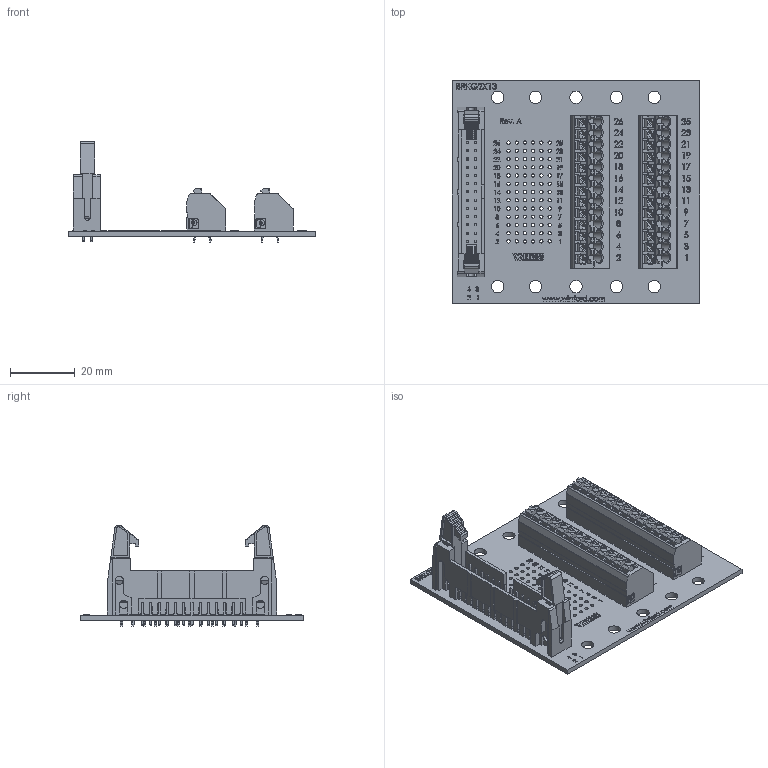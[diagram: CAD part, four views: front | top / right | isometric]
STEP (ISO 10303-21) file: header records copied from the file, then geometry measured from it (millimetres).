
FILE_DESCRIPTION (( 'STEP AP214' ), '1' );
FILE_NAME ('brkg2x13-l-n_rev_a.step', '2018-12-17T02:17:01', ( '' ), ( '' ), 'SwSTEP 2.0', 'SolidWorks 2017', '' );
FILE_SCHEMA (( 'AUTOMOTIVE_DESIGN' ));
Length unit declared in the file: inch
Products named in the file (4): Spring Terminal 13 Position; BRKG2X13 Board; Dual Row Header 2x13; brkg2x13-l-n_rev_a
Assembly tree (4 placements, depth 2):
  brkg2x13-l-n_rev_a
    BRKG2X13 Board
    Dual Row Header 2x13
    Spring Terminal 13 Position  x2
Bounding box: 76.2 x 68.58 x 31.1 mm (x, y, z)
Volume: 22550.2 mm3; surface area: 24905 mm2
Topology: 32 solids, 32 shells, 4663 faces, 12510 edges, 8126 vertices
Faces by surface type: plane 3243, cylinder 711, bspline 601, cone 108
Full cylindrical faces by diameter (mm): 0.457 x2, 0.64 x2, 1 x26, 1.016 x103, 1.04 x8, 1.041 x26, 1.14 x8, 1.38 x2, 1.47 x2, 2.3 x4, 2.4 x2, 2.5 x4, 3 x26, 3.81 x10
Entity records: 181066 total; most frequent: CARTESIAN_POINT 58478, ORIENTED_EDGE 19172, DIRECTION 15088, EDGE_CURVE 9586, VECTOR 7154, LINE 7154, VERTEX_POINT 6337, EDGE_LOOP 4401
